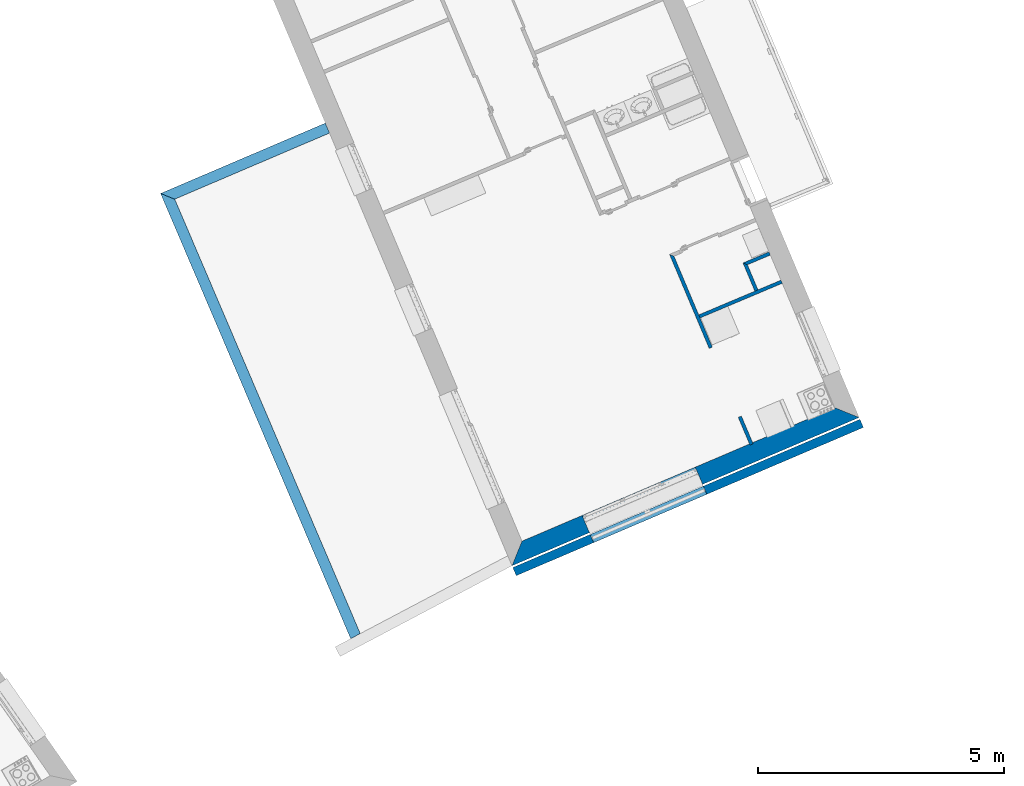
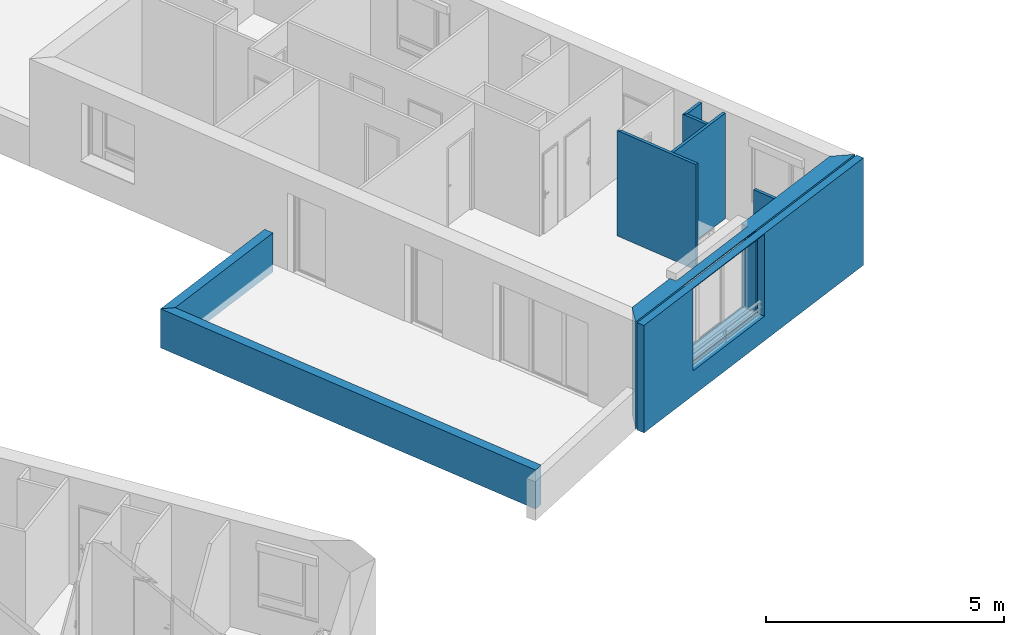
# One storey, part 31 of 121: 9 walls, 2 openings.
"""IFC2X3 building model written with IfcOpenShell, lengths in metres."""

from ifc_helpers import new_model, entity, si_unit, converted_unit, derived_unit, money_unit, direction, frame, origin_with_axes, origin_2d_with_axis, place, context, subcontext, project, spatial, polyline, rectangle, outline, extrude, faceted_brep, material, layer, layer_set, layer_usage, type_object, element, save


model = new_model("IFC2X3")

# Units and contexts
model_context = context("Model", 3, precision=1e-05, world=origin_with_axes(), true_north=direction((0.0, 1.0)))
body_context = subcontext(model_context, "Body", "Model", "MODEL_VIEW")
ifc_project = project(units=[si_unit("LENGTHUNIT", "METRE"), si_unit("AREAUNIT", "SQUARE_METRE"), si_unit("VOLUMEUNIT", "CUBIC_METRE"), converted_unit("PLANEANGLEUNIT", "DEGREE", entity("IfcPlaneAngleMeasure", 0.0174532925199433), si_unit("PLANEANGLEUNIT", "RADIAN"), dimensions=[0, 0, 0, 0, 0, 0, 0]), money_unit("CHF"), converted_unit("TIMEUNIT", "Year", entity("IfcTimeMeasure", 31557600.0), si_unit("TIMEUNIT", "SECOND"), dimensions=[0, 0, 1, 0, 0, 0, 0]), si_unit("MASSUNIT", "GRAM", prefix="KILO"), si_unit("THERMODYNAMICTEMPERATUREUNIT", "DEGREE_CELSIUS"), si_unit("LUMINOUSINTENSITYUNIT", "LUMEN"), si_unit("ENERGYUNIT", "JOULE", prefix="MEGA"), derived_unit("THERMALCONDUCTANCEUNIT", [(si_unit("POWERUNIT", "WATT"), 1), (si_unit("LENGTHUNIT", "METRE"), -1), (si_unit("THERMODYNAMICTEMPERATUREUNIT", "KELVIN"), -1)]), derived_unit("SPECIFICHEATCAPACITYUNIT", [(si_unit("ENERGYUNIT", "JOULE"), 1), (si_unit("MASSUNIT", "GRAM", prefix="KILO"), -1), (si_unit("THERMODYNAMICTEMPERATUREUNIT", "KELVIN"), -1)]), derived_unit("MASSDENSITYUNIT", [(si_unit("MASSUNIT", "GRAM", prefix="KILO"), 1), (si_unit("VOLUMEUNIT", "CUBIC_METRE"), -1)])], contexts=[model_context])

# Site, building, storey
site_placement = place(None, origin_with_axes())
site = spatial("IfcSite", under=ifc_project, at=site_placement, Name="Site", CompositionType="ELEMENT")
building_placement = place(site_placement, origin_with_axes())
building = spatial("IfcBuilding", under=site, at=building_placement, Name="Bâtiment", CompositionType="ELEMENT")
storey_placement = place(building_placement, frame((0.0, 0.0, 2.75), z_axis=(0.0, 0.0, 1.0), x_axis=(1.0, 0.0, 0.0)))
storey = spatial("IfcBuildingStorey", under=building, at=storey_placement, Name="Etage 1", CompositionType="ELEMENT", Elevation=2.75)

# Walls
ifc_material_1 = material(Name="Hachure solide 268963992")
ifc_layer_1 = layer(ifc_material_1, 0.07, ventilated="UNKNOWN")
ifc_layer_set_1 = layer_set([ifc_layer_1], Name="Cloison 70 0826278243")
ifc_layer_usage_1 = layer_usage(ifc_layer_set_1, "AXIS2", "POSITIVE", 0.0)
wall_type_1 = type_object("IfcWallType", Name="Cloison 70 0826278243 70", PredefinedType="NOTDEFINED")
wall_1_placement = place(storey_placement, frame((9576.637460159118, -1059.714551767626, 57.7), z_axis=(0.0, 0.0, 1.0), x_axis=(0.9214094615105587, 0.3885931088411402, 0.0)))
element("IfcWallStandardCase", 1, at=wall_1_placement, inside=storey, type_object=wall_type_1, material=ifc_layer_usage_1, Name="Mur-149", context=body_context, shape_type="SweptSolid", body=[
    extrude(outline(polyline([(0.07000000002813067, 0.0), (0.5758829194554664, 0.0), (0.5758849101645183, 0.06999999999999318), (1.9907990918e-06, 0.06999999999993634), (0.07000000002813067, 0.0)])), origin_with_axes(), (0.0, 0.0, 1.0), 2.7),
])
ifc_layer_usage_2 = layer_usage(ifc_layer_set_1, "AXIS2", "POSITIVE", 0.0)
wall_2_placement = place(storey_placement, frame((9575.73927330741, -1060.768608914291, 57.7), z_axis=(0.0, 0.0, 1.0), x_axis=(0.9214205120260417, 0.3885669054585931, 0.0)))
element("IfcWallStandardCase", 2, at=wall_2_placement, inside=storey, type_object=wall_type_1, material=ifc_layer_usage_2, Name="Mur-149", context=body_context, shape_type="SweptSolid", body=[
    extrude(outline(polyline([(-1.218722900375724e-10, 0.0), (1.813062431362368, 0.0), (1.813062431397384, 0.06999999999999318), (-1.1607426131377e-10, 0.06999999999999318), (-1.218722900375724e-10, 0.0)])), origin_with_axes(), (0.0, 0.0, 1.0), 2.7),
])
ifc_layer_usage_3 = layer_usage(ifc_layer_set_1, "AXIS2", "NEGATIVE", 0.0)
wall_3_placement = place(storey_placement, frame((9575.209979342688, -1059.513478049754, 57.7), z_axis=(0.0, 0.0, 1.0), x_axis=(0.3885669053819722, -0.9214205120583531, 0.0)))
element("IfcWallStandardCase", 3, at=wall_3_placement, inside=storey, type_object=wall_type_1, material=ifc_layer_usage_3, Name="Mur-149", context=body_context, shape_type="SweptSolid", body=[
    extrude(outline(polyline([(-0.07000000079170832, -0.07000000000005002), (2.003969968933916, -0.07000000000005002), (2.003969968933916, 0.0), (-7.686935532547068e-10, 0.0), (-0.07000000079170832, -0.07000000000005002)])), origin_with_axes(), (0.0, 0.0, 1.0), 2.7),
])
ifc_layer_usage_4 = layer_usage(ifc_layer_set_1, "AXIS2", "NEGATIVE", 0.0)
wall_4_placement = place(storey_placement, frame((9576.879235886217, -1060.287881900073, 57.7), z_axis=(0.0, 0.0, 1.0), x_axis=(-0.3885669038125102, 0.9214205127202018, 0.0)))
element("IfcWallStandardCase", 4, at=wall_4_placement, inside=storey, type_object=wall_type_1, material=ifc_layer_usage_4, Name="Mur-149", context=body_context, shape_type="SweptSolid", body=[
    extrude(outline(polyline([(0.07000000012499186, -0.07000000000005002), (0.6222261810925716, -0.07000000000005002), (0.6922241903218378, 0.0), (0.06999999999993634, 0.0), (0.07000000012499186, -0.07000000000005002)])), origin_with_axes(), (0.0, 0.0, 1.0), 2.7),
])
ifc_layer_usage_5 = layer_usage(ifc_layer_set_1, "AXIS2", "NEGATIVE", 0.0)
wall_5_placement = place(storey_placement, frame((9576.57897415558, -1062.759817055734, 57.7), z_axis=(0.0, 0.0, 1.0), x_axis=(0.3885669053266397, -0.921420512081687, 0.0)))
element("IfcWallStandardCase", 5, at=wall_5_placement, inside=storey, type_object=wall_type_1, material=ifc_layer_usage_5, Name="Mur-149", context=body_context, shape_type="SweptSolid", body=[
    extrude(outline(polyline([(0.0, -0.06999999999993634), (0.6120429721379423, -0.06999999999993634), (0.6120429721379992, 0.0), (0.0, 0.0), (0.0, -0.06999999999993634)])), origin_with_axes(), (0.0, 0.0, 1.0), 2.7),
])

# Wall, opening
ifc_material_2 = material(Name="Parpaing 312445824")
ifc_layer_2 = layer(ifc_material_2, 0.22, ventilated="UNKNOWN")
ifc_material_3 = material(Name="Isolant styromousse 301821074")
ifc_layer_3 = layer(ifc_material_3, 0.16, ventilated="UNKNOWN")
ifc_layer_set_2 = layer_set([ifc_layer_2, ifc_layer_3], Name="isol int 22+16 0836643197")
ifc_layer_usage_6 = layer_usage(ifc_layer_set_2, "AXIS2", "NEGATIVE", 0.0)
wall_type_2 = type_object("IfcWallType", Name="isol int 22+16 0836643197 380", PredefinedType="NOTDEFINED")
wall_6_placement = place(storey_placement, frame((9578.97180599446, -1062.790035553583, 57.7), z_axis=(0.0, 0.0, 1.0), x_axis=(-0.9196673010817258, -0.392698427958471, 0.0)))
wall_6 = element("IfcWallStandardCase", 6, at=wall_6_placement, inside=storey, type_object=wall_type_2, material=ifc_layer_usage_6, Name="Mur-113", context=body_context, shape_type="SweptSolid", body=[
    extrude(outline(polyline([(0.3782983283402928, -0.3799999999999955), (7.288282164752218, -0.3799999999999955), (7.669991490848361, 0.0), (0.0, 0.0), (0.3782983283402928, -0.3799999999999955)])), origin_with_axes(), (0.0, 0.0, 1.0), 2.75),
])
opening_1_placement = place(wall_6_placement, frame((4.708981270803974, 0.0, 0.6302146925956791), z_axis=(0.0, 0.0, 1.0), x_axis=(1.0, 0.0, 0.0)))
element("IfcOpeningElement", 7, at=opening_1_placement, cuts=wall_6, Name="Fen-045", context=body_context, shape_type="Brep", body=[
    faceted_brep([(-1.25, -0.3000000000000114, 2.099785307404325), (-1.25, -0.2199999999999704, 2.099785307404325), (-1.25, 2.771032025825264, 2.099785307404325), (-1.25, 2.771032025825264, 0.0), (-1.25, -0.3000000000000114, 0.0), (-1.250000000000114, -0.4800000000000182, 2.099785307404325), (-1.250000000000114, -0.4800000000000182, 2.299785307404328), (-1.25, -0.2199999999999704, 2.299785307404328), (1.25, -0.2200000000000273, 2.099785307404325), (1.25, 2.77103202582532, 2.099785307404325), (1.25, 2.77103202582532, 0.0), (1.249999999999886, -0.2999999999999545, 0.0), (-1.25, -3.151032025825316, 0.0), (-1.25, -3.151032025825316, 2.099785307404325), (1.25, -0.4799999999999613, 2.099785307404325), (1.25, -0.4799999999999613, 2.299785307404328), (1.25, -0.2200000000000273, 2.299785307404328), (1.250000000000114, -0.3000000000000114, 2.099785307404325), (1.25, -3.151032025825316, 0.0), (1.25, -3.151032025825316, 2.099785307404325)], [[[0, 1, 2, 3, 4]], [[1, 0, 5, 6, 7]], [[1, 8, 9, 2]], [[9, 10, 3, 2]], [[11, 4, 3, 10]], [[5, 0, 4, 12, 13]], [[5, 14, 15, 6]], [[7, 6, 15, 16]], [[8, 1, 7, 16]], [[8, 17, 11, 10, 9]], [[4, 11, 18, 12]], [[13, 12, 18, 19]], [[14, 5, 13, 19]], [[17, 8, 16, 15, 14]], [[17, 14, 19, 18, 11]]]),
])

# Walls
ifc_material_4 = material(Name="Empty Fill 3000033799")
ifc_layer_4 = layer(ifc_material_4, 0.22, ventilated="UNKNOWN")
ifc_layer_set_3 = layer_set([ifc_layer_4], Name="acrotère 22")
ifc_layer_usage_7 = layer_usage(ifc_layer_set_3, "AXIS2", "POSITIVE", 0.0)
wall_type_3 = type_object("IfcWallType", Name="acrotère 22 220", PredefinedType="NOTDEFINED")
wall_7_placement = place(storey_placement, frame((9568.125629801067, -1056.809147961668, 57.7), z_axis=(0.0, 0.0, 1.0), x_axis=(-0.9196521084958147, -0.3927340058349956, 0.0)))
element("IfcWallStandardCase", 8, at=wall_7_placement, inside=storey, type_object=wall_type_3, material=ifc_layer_usage_7, Name="Mur-105", context=body_context, shape_type="SweptSolid", body=[
    extrude(outline(polyline([(3.767581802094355e-10, 0.0), (3.639789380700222, 0.0), (3.419789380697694, 0.2199999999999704), (0.0009959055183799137, 0.2199999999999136), (3.767581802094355e-10, 0.0)])), origin_with_axes(), (0.0, 0.0, 1.0), 1.0),
])
ifc_layer_usage_8 = layer_usage(ifc_layer_set_3, "AXIS2", "POSITIVE", 0.0)
wall_8_placement = place(storey_placement, frame((9564.778289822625, -1058.238617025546, 57.7), z_axis=(0.0, 0.0, 1.0), x_axis=(0.3927340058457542, -0.9196521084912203, 0.0)))
element("IfcWallStandardCase", 9, at=wall_8_placement, inside=storey, type_object=wall_type_3, material=ifc_layer_usage_8, Name="Mur-105", context=body_context, shape_type="SweptSolid", body=[
    extrude(outline(polyline([(0.0, 0.0), (9.835398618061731, 0.0), (9.817260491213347, 0.220000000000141), (0.2200000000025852, 0.2200000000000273), (0.0, 0.0)])), origin_with_axes(), (0.0, 0.0, 1.0), 1.0),
])

# Wall, opening
ifc_material_5 = material(Name="Parpaing 314940890")
ifc_layer_5 = layer(ifc_material_5, 0.18, ventilated="UNKNOWN")
ifc_layer_set_4 = layer_set([ifc_layer_5], Name="Beton  18")
ifc_layer_usage_9 = layer_usage(ifc_layer_set_4, "AXIS2", "NEGATIVE", 0.0)
wall_type_4 = type_object("IfcWallType", Name="Beton  18 180", PredefinedType="NOTDEFINED")
wall_9_placement = place(storey_placement, frame((9579.05819962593, -1062.992362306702, 57.7), z_axis=(0.0, 0.0, 1.0), x_axis=(-0.9196673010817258, -0.392698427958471, 0.0)))
wall_9 = element("IfcWallStandardCase", 10, at=wall_9_placement, inside=storey, type_object=wall_type_4, material=ifc_layer_usage_9, Name="Mur-113", context=body_context, shape_type="SweptSolid", body=[
    extrude(outline(polyline([(0.0, -0.1800000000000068), (7.669991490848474, -0.1800000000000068), (7.669991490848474, 0.0), (0.0, 0.0), (0.0, -0.1800000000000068)])), origin_with_axes(), (0.0, 0.0, 1.0), 2.75),
])
opening_2_placement = place(wall_9_placement, frame((4.708981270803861, 0.0, 0.6300000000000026), z_axis=(0.0, 0.0, 1.0), x_axis=(1.0, 0.0, 0.0)))
element("IfcOpeningElement", 11, at=opening_2_placement, cuts=wall_9, Name="Fen-045", context=body_context, shape_type="SweptSolid", body=[
    extrude(rectangle(XDim=2.5, YDim=2.099999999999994, at=origin_2d_with_axis()), frame((0.0, -0.2999999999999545, 1.049999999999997), z_axis=(0.0, -1.0, 0.0), x_axis=(1.0, 0.0, 0.0)), (0.0, 0.0, -1.0), 0.48),
    extrude(rectangle(XDim=2.5, YDim=2.099999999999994, at=origin_2d_with_axis()), frame((0.0, -0.3000000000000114, 1.049999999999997), z_axis=(0.0, 1.0, 0.0), x_axis=(1.0, 0.0, 0.0)), (0.0, 0.0, -1.0), 0.48),
])

save(model, "model.ifc")
